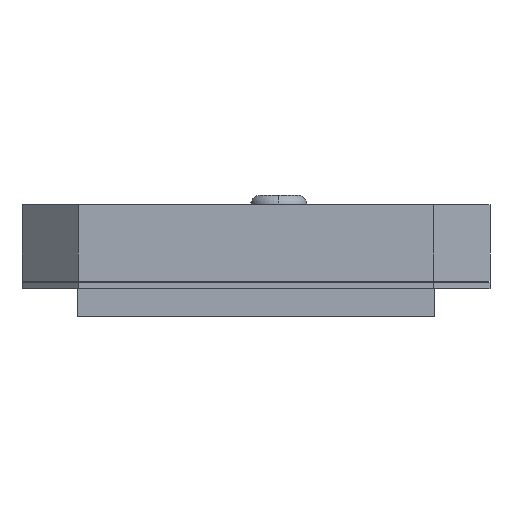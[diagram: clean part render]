
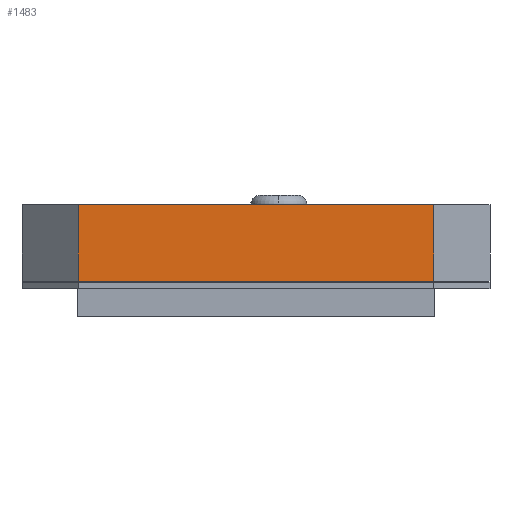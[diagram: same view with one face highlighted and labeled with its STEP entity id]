
A CAD part, front view. The second image highlights one B-rep face of the part: STEP entity #1483.
In plain terms, the highlighted planar face has unit normal (0, -1, 0).
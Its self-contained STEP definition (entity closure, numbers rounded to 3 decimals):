
#1247=DIRECTION('',(1.,0.,0.));
#1248=VECTOR('',#1247,19.);
#1249=CARTESIAN_POINT('',(-9.5,-12.5,0.));
#1250=LINE('',#1249,#1248);
#1265=DIRECTION('',(1.,0.,0.));
#1266=VECTOR('',#1265,19.);
#1267=CARTESIAN_POINT('',(-9.5,-12.5,-4.1));
#1268=LINE('',#1267,#1266);
#1293=DIRECTION('',(0.,0.,-1.));
#1294=VECTOR('',#1293,4.1);
#1295=CARTESIAN_POINT('',(-9.5,-12.5,0.));
#1296=LINE('',#1295,#1294);
#1297=DIRECTION('',(0.,0.,-1.));
#1298=VECTOR('',#1297,4.1);
#1299=CARTESIAN_POINT('',(9.5,-12.5,0.));
#1300=LINE('',#1299,#1298);
#1325=CARTESIAN_POINT('',(-9.5,-12.5,-4.1));
#1327=VERTEX_POINT('',#1325);
#1331=CARTESIAN_POINT('',(-9.5,-12.5,0.));
#1332=VERTEX_POINT('',#1331);
#1350=CARTESIAN_POINT('',(9.5,-12.5,-4.1));
#1352=VERTEX_POINT('',#1350);
#1353=CARTESIAN_POINT('',(9.5,-12.5,0.));
#1354=VERTEX_POINT('',#1353);
#1471=CARTESIAN_POINT('',(-12.5,-12.5,0.));
#1472=DIRECTION('',(0.,-1.,0.));
#1473=DIRECTION('',(1.,0.,0.));
#1474=AXIS2_PLACEMENT_3D('',#1471,#1472,#1473);
#1475=PLANE('',#1474);
#1476=ORIENTED_EDGE('',*,*,#1443,.F.);
#1477=ORIENTED_EDGE('',*,*,#1424,.T.);
#1479=ORIENTED_EDGE('',*,*,#1478,.T.);
#1480=ORIENTED_EDGE('',*,*,#1454,.F.);
#1481=EDGE_LOOP('',(#1476,#1477,#1479,#1480));
#1482=FACE_OUTER_BOUND('',#1481,.F.);
#1483=ADVANCED_FACE('',(#1482),#1475,.T.);
#1424=EDGE_CURVE('',#1332,#1354,#1250,.T.);
#1443=EDGE_CURVE('',#1332,#1327,#1296,.T.);
#1454=EDGE_CURVE('',#1327,#1352,#1268,.T.);
#1478=EDGE_CURVE('',#1354,#1352,#1300,.T.);
